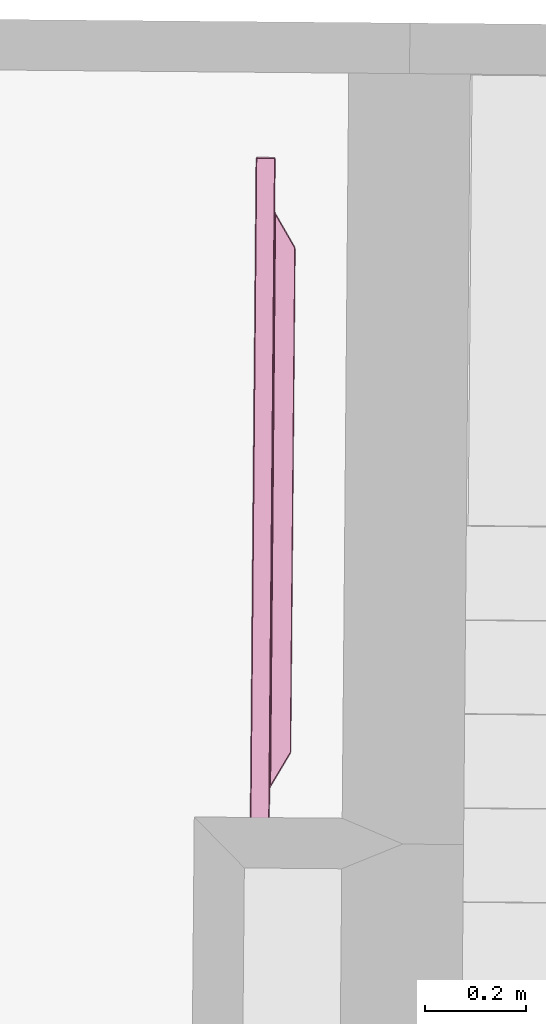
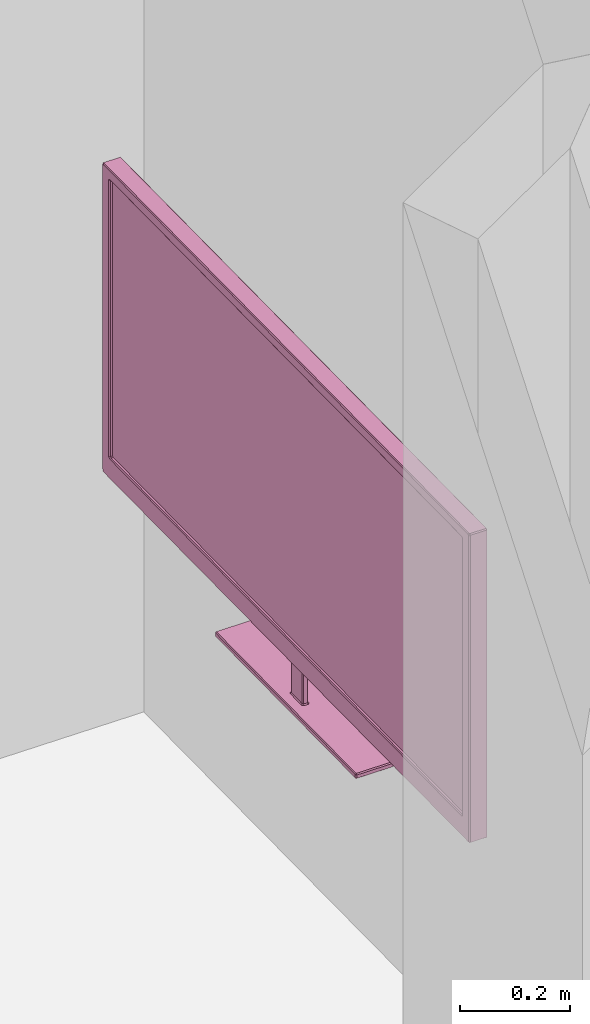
# One storey, part 3 of 7: 1 furniture element.
"""IFC4 building model written with IfcOpenShell, lengths in metres."""

import ifcopenshell
import ifcopenshell.guid

model = None  # the IFC model being written
_history = None  # IfcOwnerHistory: only IFC2X3 demands one
_inside = {}  # id of a spatial element -> (the spatial element, [elements in it])
_under = {}  # id of a project, library or spatial element -> (it, [spatial elements below it])
_declared = {}  # id of a project -> (the project, [libraries it declares])
_typed = {}  # id of a type object -> (the type object, [elements of that type])
_made_of = {}  # id of a material, layer set ... -> (it, [elements and type objects made of it])


def new_model(schema):
    """Start an empty IFC model of exactly this schema.

    Asked for "IFC4X3", IfcOpenShell would pick the latest addendum, in which some entities
    have other attributes; the version numbers below select the first issue.
    IFC2X3 requires an IfcOwnerHistory on every rooted entity: one is made here for all.
    """
    global model, _history
    if schema == "IFC4X3":
        model = ifcopenshell.file(schema_version=(4, 3, 0, 0))
    else:
        model = ifcopenshell.file(schema=schema)
    _inside.clear()
    _under.clear()
    _declared.clear()
    _typed.clear()
    _made_of.clear()
    _history = None
    if model.schema == "IFC2X3":
        org = make("IfcOrganization", Name="unknown")
        user = make(
            "IfcPersonAndOrganization",
            ThePerson=make("IfcPerson", FamilyName="unknown"),
            TheOrganization=org,
        )
        app = make(
            "IfcApplication",
            ApplicationDeveloper=org,
            Version="unknown",
            ApplicationFullName="unknown",
            ApplicationIdentifier="unknown",
        )
        _history = make(
            "IfcOwnerHistory",
            OwningUser=user,
            OwningApplication=app,
            ChangeAction="ADDED",
            CreationDate=0,
        )
    return model


def make(cls, **values):
    """One entity of the class cls with the attributes given. An attribute that is None is left unset."""
    return model.create_entity(
        cls, **{name: value for name, value in values.items() if value is not None}
    )


def rooted(cls, **values):
    """An entity with a GlobalId (a new one), such as an element, a storey or a relation."""
    return make(cls, GlobalId=ifcopenshell.guid.new(), OwnerHistory=_history, **values)


def si_unit(unit_type, name, prefix=None):
    """IfcSIUnit, for example si_unit("LENGTHUNIT", "METRE", prefix="MILLI")."""
    return make("IfcSIUnit", UnitType=unit_type, Prefix=prefix, Name=name)


def assignment(units):
    """IfcUnitAssignment: the units of a project."""
    return None if units is None else make("IfcUnitAssignment", Units=units)


def point(xyz):
    """IfcCartesianPoint."""
    return None if xyz is None else make("IfcCartesianPoint", Coordinates=xyz)


def direction(xyz):
    """IfcDirection."""
    return None if xyz is None else make("IfcDirection", DirectionRatios=xyz)


def frame(location, z_axis=None, x_axis=None):
    """IfcAxis2Placement3D, a coordinate frame: its origin and axes. An axis left out is left unset."""
    return make(
        "IfcAxis2Placement3D",
        Location=point(location),
        Axis=direction(z_axis),
        RefDirection=direction(x_axis),
    )


def origin_with_axes():
    """The frame at (0, 0, 0) with the z axis (0, 0, 1) and the x axis (1, 0, 0) written out."""
    return frame((0.0, 0.0, 0.0), z_axis=(0.0, 0.0, 1.0), x_axis=(1.0, 0.0, 0.0))


def place(relative_to, where):
    """IfcLocalPlacement: puts the frame where relative to a parent placement (None: the world)."""
    return make(
        "IfcLocalPlacement", PlacementRelTo=relative_to, RelativePlacement=where
    )


def context(
    kind, dimensions, precision=None, world=None, true_north=None, identifier=None
):
    """IfcGeometricRepresentationContext, for example the 3D "Model" context."""
    return make(
        "IfcGeometricRepresentationContext",
        ContextIdentifier=identifier,
        ContextType=kind,
        CoordinateSpaceDimension=dimensions,
        Precision=precision,
        WorldCoordinateSystem=world,
        TrueNorth=true_north,
    )


def project(units=None, contexts=None):
    """IfcProject with its units and contexts."""
    return rooted(
        "IfcProject",
        Name="project",
        RepresentationContexts=contexts,
        UnitsInContext=assignment(units),
    )


def spatial(cls, under=None, at=None, **own):
    """A site, building, storey or space (cls), placed at a placement, below another one or the project."""
    s = rooted(cls, ObjectPlacement=at, **own)
    if under is not None:
        _under.setdefault(under.id(), (under, []))[1].append(s)
    return s


def point_list(points):
    """IfcCartesianPointList2D or 3D."""
    cls = (
        "IfcCartesianPointList2D" if len(points[0]) == 2 else "IfcCartesianPointList3D"
    )
    return make(cls, CoordList=points)


def polygons(points, faces, closed=None, point_numbers=None):
    """IfcPolygonalFaceSet: a face is its outer loop, then its inner loops; points numbered from 1."""
    made = []
    for loops in faces:
        if len(loops) == 1:
            made.append(make("IfcIndexedPolygonalFace", CoordIndex=loops[0]))
        else:
            made.append(
                make(
                    "IfcIndexedPolygonalFaceWithVoids",
                    CoordIndex=loops[0],
                    InnerCoordIndices=loops[1:],
                )
            )
    return make(
        "IfcPolygonalFaceSet",
        Coordinates=point_list(points),
        Closed=closed,
        Faces=made,
        PnIndex=point_numbers,
    )


def shape(context_of_items, identifier, shape_type, items):
    """IfcShapeRepresentation: the items that make up one representation, for example the "Body"."""
    return make(
        "IfcShapeRepresentation",
        ContextOfItems=context_of_items,
        RepresentationIdentifier=identifier,
        RepresentationType=shape_type,
        Items=items,
    )


def made_of(thing, what):
    """Note that an element or type object is made of a material, layer set ...; save() writes the relation."""
    if what is not None:
        _made_of.setdefault(what.id(), (what, []))[1].append(thing)
    return thing


def type_object(cls, material=None, **own):
    """A type object (cls), such as IfcWallType, which elements share."""
    return made_of(rooted(cls, **own), material)


def element(
    cls,
    number,
    at=None,
    inside=None,
    cuts=None,
    type_object=None,
    material=None,
    context=None,
    identifier="Body",
    shape_type=None,
    held_by="IfcProductDefinitionShape",
    body=None,
    shapes=None,
    **own,
):
    """One element of the class cls, such as IfcWall. Its Tag is "e" and its number.

    at: its placement. inside: the storey or other place that contains it. cuts: it is an
    opening in that element (IfcRelVoidsElement). A single representation is given by context,
    identifier, shape_type and body (its items); several are given by shapes. held_by: the class
    of the entity that holds the representations. save() writes the other relations.
    """
    e = rooted(cls, Tag="e%d" % number, ObjectPlacement=at, **own)
    if body is not None:
        shapes = [shape(context, identifier, shape_type, body)]
    if shapes is not None:
        e.Representation = make(held_by, Representations=shapes)
    if inside is not None:
        _inside.setdefault(inside.id(), (inside, []))[1].append(e)
    if cuts is not None:
        rooted(
            "IfcRelVoidsElement", RelatingBuildingElement=cuts, RelatedOpeningElement=e
        )
    if type_object is not None:
        _typed.setdefault(type_object.id(), (type_object, []))[1].append(e)
    return made_of(e, material)


def aggregate(whole, parts):
    """IfcRelAggregates: a whole, such as a stair, and the parts it consists of."""
    return rooted("IfcRelAggregates", RelatingObject=whole, RelatedObjects=parts)


def save(model, path):
    """Write the relations noted so far, then the file.

    IfcRelAggregates (storeys below a building ...), IfcRelContainedInSpatialStructure (elements
    in a storey), IfcRelDefinesByType, IfcRelAssociatesMaterial and IfcRelDeclares: one each for
    every whole, place, type object, material and project.
    """
    for whole, parts in _under.values():
        aggregate(whole, parts)
    for where, things in _inside.values():
        rooted(
            "IfcRelContainedInSpatialStructure",
            RelatedElements=things,
            RelatingStructure=where,
        )
    for kind, things in _typed.values():
        rooted("IfcRelDefinesByType", RelatedObjects=things, RelatingType=kind)
    for what, things in _made_of.values():
        rooted("IfcRelAssociatesMaterial", RelatedObjects=things, RelatingMaterial=what)
    for by, libraries in _declared.values():
        rooted("IfcRelDeclares", RelatingContext=by, RelatedDefinitions=libraries)
    model.write(path)


model = new_model("IFC4")

# Units and contexts
model_context = context("Model", 3, precision=1e-05, world=origin_with_axes(), true_north=direction((-0.077, 0.997, 0.0)))
ifc_project = project(units=[si_unit("AREAUNIT", "SQUARE_METRE"), si_unit("LENGTHUNIT", "METRE")], contexts=[model_context])

# Site, building, storey, space
site_placement = place(None, origin_with_axes())
site = spatial("IfcSite", under=ifc_project, at=site_placement, Name="Site", CompositionType="ELEMENT")
building_placement = place(site_placement, origin_with_axes())
building = spatial("IfcBuilding", under=site, at=building_placement, Name="Building", CompositionType="ELEMENT")
storey_placement = place(building_placement, frame((0.0, 0.0, 2.86083245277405), z_axis=(0.0, 0.0, 1.0), x_axis=(1.0, 0.0, 0.0)))
storey = spatial("IfcBuildingStorey", under=building, at=storey_placement, Name="Story 1", CompositionType="ELEMENT", Elevation=2.86083245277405)
space_placement = place(storey_placement, frame((-1.88934694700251, -5.03419151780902, 0.0), z_axis=(0.0, 0.0, 1.0), x_axis=(1.0, 0.0, 0.0)))
space = spatial("IfcSpace", under=storey, at=space_placement, Name="009", CompositionType="ELEMENT")

# Furniture
furniture_type = type_object("IfcFurnitureType", Name="3d30dc89-6ee4-4fe1-a09d-7763d9edd0d6", AssemblyPlace="NOTDEFINED", PredefinedType="USERDEFINED")
furniture_placement = place(space_placement, frame((3.06013118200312, 6.04614415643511, 0.98630952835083), z_axis=(0.0, 0.0, 0.999999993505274), x_axis=(-0.999961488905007, 0.00878521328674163, 0.0)))
element("IfcFurniture", 1, at=furniture_placement, inside=space, type_object=furniture_type, Name="Television", ObjectType="Television", PredefinedType="USERDEFINED", context=model_context, shape_type="Tessellation", body=[
    polygons([(0.0288, -0.6434, -0.2362), (0.0288, 0.6434, -0.2362), (0.0288, -0.646, -0.234), (0.0288, -0.646, 0.3703), (0.0288, -0.646, -0.234), (0.0288, -0.6434, 0.3725), (0.0288, 0.6434, 0.3725), (0.0288, -0.6434, 0.3725), (0.0288, 0.646, 0.3703), (0.0288, -0.6434, 0.3725), (0.0288, -0.646, -0.234), (0.0288, 0.646, 0.3703), (0.0288, -0.646, -0.234), (0.0288, 0.6434, -0.2362), (0.0288, 0.646, 0.3703), (0.0288, 0.6434, -0.2362), (0.0288, 0.646, -0.234), (0.0288, 0.646, 0.3703), (0.003, -0.6785, 0.3973), (0.003, -0.6785, -0.2848), (0.038, -0.6785, 0.3973), (0.038, -0.6785, -0.2848), (0.038, -0.6785, 0.3973), (0.003, -0.6785, -0.2848), (0.003, 0.6785, -0.2848), (0.003, 0.6785, 0.3973), (0.038, 0.6785, -0.2848), (0.038, 0.6785, 0.3973), (0.038, 0.6785, -0.2848), (0.003, 0.6785, 0.3973), (0.003, 0.676, 0.3994), (0.003, -0.676, 0.3994), (0.038, 0.676, 0.3994), (0.038, -0.676, 0.3994), (0.038, 0.676, 0.3994), (0.003, -0.676, 0.3994), (0.0143, -0.0234, -0.2623), (0.0062, -0.0234, -0.2623), (0.0143, -0.0234, -0.3858), (0.0062, -0.0234, -0.3858), (0.0143, -0.0234, -0.3858), (0.0062, -0.0234, -0.2623), (0.0162, 0.0186, -0.2623), (0.0162, -0.0209, -0.2623), (0.0162, 0.0186, -0.3858), (0.0162, -0.0209, -0.3858), (0.0162, 0.0186, -0.3858), (0.0162, -0.0209, -0.2623), (0.0062, 0.0211, -0.2623), (0.0143, 0.0211, -0.2623), (0.0062, 0.0211, -0.3858), (0.0143, 0.0211, -0.3858), (0.0062, 0.0211, -0.3858), (0.0143, 0.0211, -0.2623), (-0.04, 0.4974, -0.1608), (-0.04, -0.4974, -0.1608), (-0.04, 0.4974, 0.2733), (-0.04, -0.4974, 0.2733), (-0.04, 0.4974, 0.2733), (-0.04, -0.4974, -0.1608), (0.0043, 0.0186, -0.3858), (0.0043, -0.0209, -0.3858), (0.0043, 0.0186, -0.2623), (0.0043, -0.0209, -0.2623), (0.0043, 0.0186, -0.2623), (0.0043, -0.0209, -0.3858), (0.038, -0.676, -0.2869), (0.003, -0.676, -0.2869), (0.038, 0.676, -0.2869), (0.003, 0.676, -0.2869), (0.038, 0.676, -0.2869), (0.003, -0.676, -0.2869), (-0.0379, -0.2595, -0.3994), (-0.0379, 0.2572, -0.3994), (0.0382, -0.2595, -0.3994), (0.0382, 0.2572, -0.3994), (0.0382, -0.2595, -0.3994), (-0.0379, 0.2572, -0.3994), (0.0399, -0.6495, -0.2424), (0.0399, -0.6745, -0.2848), (0.0399, 0.6495, -0.2424), (0.0399, 0.6745, -0.2848), (0.0399, 0.6495, -0.2424), (0.0399, -0.6745, -0.2848), (0.0399, -0.6536, 0.3758), (0.0399, -0.676, 0.3944), (0.0399, -0.6536, -0.2399), (0.0399, -0.676, -0.2779), (0.0399, -0.6536, -0.2399), (0.0399, -0.676, 0.3944), (0.0399, 0.65, 0.3787), (0.0399, 0.6725, 0.3973), (0.0399, -0.65, 0.3787), (0.0399, -0.6725, 0.3973), (0.0399, -0.65, 0.3787), (0.0399, 0.6725, 0.3973), (0.0399, 0.676, -0.2779), (0.0399, 0.676, 0.3944), (0.0399, 0.6536, -0.2399), (0.0399, 0.6536, 0.3758), (0.0399, 0.6536, -0.2399), (0.0399, 0.676, 0.3944), (0.0288, -0.6434, -0.2362), (0.0381, -0.6476, -0.2397), (0.0288, 0.6434, -0.2362), (0.0381, 0.6476, -0.2397), (0.0288, 0.6434, -0.2362), (0.0381, -0.6476, -0.2397), (0.0288, -0.646, 0.3703), (0.0381, -0.6503, 0.3738), (0.0288, -0.646, -0.234), (0.0381, -0.6503, -0.2375), (0.0288, -0.646, -0.234), (0.0381, -0.6503, 0.3738), (0.0288, 0.6434, 0.3725), (0.0381, 0.6476, 0.376), (0.0288, -0.6434, 0.3725), (0.0381, -0.6476, 0.376), (0.0288, -0.6434, 0.3725), (0.0381, 0.6476, 0.376), (0.0288, 0.646, -0.234), (0.0381, 0.6503, -0.2375), (0.0288, 0.646, 0.3703), (0.0381, 0.6503, 0.3738), (0.0288, 0.646, 0.3703), (0.0381, 0.6503, -0.2375), (0.0011, -0.5728, -0.2011), (0.0011, -0.676, -0.2821), (0.0011, -0.5728, 0.3137), (0.0011, -0.676, 0.3946), (0.0011, -0.5728, 0.3137), (0.0011, -0.676, -0.2821), (0.0011, 0.5693, -0.2041), (0.0011, 0.6722, -0.2848), (0.0011, -0.5693, -0.2041), (0.0011, -0.6722, -0.2848), (0.0011, -0.5693, -0.2041), (0.0011, 0.6722, -0.2848), (0.0011, 0.5728, 0.3137), (0.0011, 0.676, 0.3946), (0.0011, 0.5728, -0.2011), (0.0011, 0.676, -0.2821), (0.0011, 0.5728, -0.2011), (0.0011, 0.676, 0.3946), (0.0011, -0.5693, 0.3166), (0.0011, -0.6722, 0.3973), (0.0011, 0.5693, 0.3166), (0.0011, 0.6722, 0.3973), (0.0011, 0.5693, 0.3166), (0.0011, -0.6722, 0.3973), (-0.0389, -0.5018, 0.2741), (-0.0389, -0.5018, -0.1616), (0.0, -0.5683, 0.3111), (0.0, -0.5683, -0.1986), (0.0, -0.5683, 0.3111), (-0.0389, -0.5018, -0.1616), (-0.0386, -0.4988, -0.1642), (-0.0386, 0.4988, -0.1642), (-0.0003, -0.5644, -0.2007), (-0.0003, 0.5644, -0.2007), (-0.0003, -0.5644, -0.2007), (-0.0386, 0.4988, -0.1642), (-0.0389, 0.5018, -0.1616), (-0.0389, 0.5018, 0.2741), (0.0, 0.5683, -0.1986), (0.0, 0.5683, 0.3111), (0.0, 0.5683, -0.1986), (-0.0389, 0.5018, 0.2741), (-0.0386, 0.4988, 0.2767), (-0.0386, -0.4988, 0.2767), (-0.0003, 0.5644, 0.3132), (-0.0003, -0.5644, 0.3132), (-0.0003, 0.5644, 0.3132), (-0.0386, -0.4988, 0.2767), (0.04, 0.2572, -0.3973), (0.04, 0.2572, -0.39), (0.04, -0.2595, -0.3973), (0.04, -0.2595, -0.39), (0.04, -0.2595, -0.3973), (0.04, 0.2572, -0.39), (-0.0379, 0.2597, -0.3973), (-0.0379, 0.2597, -0.39), (0.0382, 0.2597, -0.3973), (0.0382, 0.2597, -0.39), (0.0382, 0.2597, -0.3973), (-0.0379, 0.2597, -0.39), (-0.0397, -0.2595, -0.3973), (-0.0397, -0.2595, -0.39), (-0.0397, 0.2572, -0.3973), (-0.0397, 0.2572, -0.39), (-0.0397, 0.2572, -0.3973), (-0.0397, -0.2595, -0.39), (0.0382, -0.262, -0.3973), (0.0382, -0.262, -0.39), (-0.0379, -0.262, -0.3973), (-0.0379, -0.262, -0.39), (-0.0379, -0.262, -0.3973), (0.0382, -0.262, -0.39), (-0.0374, -0.2595, -0.388), (0.0379, -0.2595, -0.388), (0.0058, -0.0259, -0.3879), (0.0146, -0.0259, -0.3879), (0.0058, -0.0259, -0.3879), (0.0379, -0.2595, -0.388), (0.0025, 0.0208, -0.3879), (-0.0379, 0.2395, -0.388), (0.0025, -0.0231, -0.3879), (-0.0379, -0.2418, -0.388), (0.0025, -0.0231, -0.3879), (-0.0379, 0.2395, -0.388), (0.0146, 0.0236, -0.3879), (0.0379, 0.2572, -0.388), (0.0058, 0.0236, -0.3879), (-0.0374, 0.2572, -0.388), (0.0058, 0.0236, -0.3879), (0.0379, 0.2572, -0.388), (0.018, -0.0232, -0.3879), (0.0382, -0.225, -0.3879), (0.018, 0.0209, -0.3879), (0.0382, 0.2227, -0.3879), (0.018, 0.0209, -0.3879), (0.0382, -0.225, -0.3879), (0.0346, -0.6637, -0.2482), (0.0346, 0.6637, -0.2482), (0.0346, -0.6637, 0.3845), (0.0346, 0.6637, 0.3844), (0.0346, -0.6637, 0.3845), (0.0346, 0.6637, -0.2482), (0.0399, -0.6725, 0.3973), (0.038, -0.676, 0.3994), (0.0399, -0.676, 0.3944), (0.038, -0.6785, 0.3973), (0.0399, -0.676, 0.3944), (0.038, -0.676, 0.3994), (0.0011, 0.6722, 0.3973), (0.003, 0.676, 0.3994), (0.0011, 0.676, 0.3946), (0.003, 0.6785, 0.3973), (0.0011, 0.676, 0.3946), (0.003, 0.676, 0.3994), (0.0399, 0.676, 0.3944), (0.038, 0.6785, 0.3973), (0.0399, 0.6725, 0.3973), (0.038, 0.676, 0.3994), (0.0399, 0.6725, 0.3973), (0.038, 0.6785, 0.3973), (0.0058, -0.0259, -0.3879), (0.0062, -0.0234, -0.3858), (0.0025, -0.0231, -0.3879), (0.0043, -0.0209, -0.3858), (0.0025, -0.0231, -0.3879), (0.0062, -0.0234, -0.3858), (0.0146, -0.0259, -0.3879), (0.018, -0.0232, -0.3879), (0.0143, -0.0234, -0.3858), (0.0162, -0.0209, -0.3858), (0.0143, -0.0234, -0.3858), (0.018, -0.0232, -0.3879), (0.0146, 0.0236, -0.3879), (0.0143, 0.0211, -0.3858), (0.018, 0.0209, -0.3879), (0.0162, 0.0186, -0.3858), (0.018, 0.0209, -0.3879), (0.0143, 0.0211, -0.3858), (-0.0386, -0.4988, 0.2767), (-0.04, -0.4974, 0.2733), (-0.0389, -0.5018, 0.2741), (0.0058, 0.0236, -0.3879), (0.0025, 0.0208, -0.3879), (0.0062, 0.0211, -0.3858), (0.0043, 0.0186, -0.3858), (0.0062, 0.0211, -0.3858), (0.0025, 0.0208, -0.3879), (0.0011, -0.6722, -0.2848), (0.003, -0.676, -0.2869), (0.0011, -0.676, -0.2821), (0.003, -0.6785, -0.2848), (0.0011, -0.676, -0.2821), (0.003, -0.676, -0.2869), (0.0399, -0.676, -0.2779), (0.038, -0.6785, -0.2848), (0.0399, -0.6745, -0.2848), (0.038, -0.676, -0.2869), (0.0399, -0.6745, -0.2848), (0.038, -0.6785, -0.2848), (0.0382, -0.262, -0.3973), (0.0382, -0.2595, -0.3994), (0.04, -0.2595, -0.3973), (0.0399, 0.676, -0.2779), (0.0399, 0.6745, -0.2848), (0.038, 0.6785, -0.2848), (0.038, 0.676, -0.2869), (0.038, 0.6785, -0.2848), (0.0399, 0.6745, -0.2848), (0.0381, -0.6503, -0.2375), (0.0399, -0.6536, -0.2399), (0.0381, -0.6476, -0.2397), (0.0399, -0.6495, -0.2424), (0.0381, -0.6476, -0.2397), (0.0399, -0.6536, -0.2399), (0.0381, -0.6476, 0.376), (0.0399, -0.65, 0.3787), (0.0381, -0.6503, 0.3738), (0.0399, -0.6536, 0.3758), (0.0381, -0.6503, 0.3738), (0.0399, -0.65, 0.3787), (0.0381, 0.6503, 0.3738), (0.0399, 0.6536, 0.3758), (0.0381, 0.6476, 0.376), (0.0399, 0.65, 0.3787), (0.0381, 0.6476, 0.376), (0.0399, 0.6536, 0.3758), (0.0381, 0.6503, -0.2375), (0.0381, 0.6476, -0.2397), (0.0399, 0.6536, -0.2399), (0.0399, 0.6495, -0.2424), (0.0399, 0.6536, -0.2399), (0.0381, 0.6476, -0.2397), (0.0011, -0.6722, 0.3973), (0.0011, -0.676, 0.3946), (0.003, -0.676, 0.3994), (0.003, -0.6785, 0.3973), (0.003, -0.676, 0.3994), (0.0011, -0.676, 0.3946), (-0.0003, -0.5644, 0.3132), (0.0, -0.5683, 0.3111), (0.0011, -0.5693, 0.3166), (0.0011, -0.5728, 0.3137), (0.0011, -0.5693, 0.3166), (0.0, -0.5683, 0.3111), (-0.0003, -0.5644, -0.2007), (0.0011, -0.5693, -0.2041), (0.0, -0.5683, -0.1986), (0.0011, -0.5728, -0.2011), (0.0, -0.5683, -0.1986), (0.0011, -0.5693, -0.2041), (0.0011, 0.6722, -0.2848), (0.0011, 0.676, -0.2821), (0.003, 0.676, -0.2869), (0.003, 0.6785, -0.2848), (0.003, 0.676, -0.2869), (0.0011, 0.676, -0.2821), (-0.0003, 0.5644, -0.2007), (0.0, 0.5683, -0.1986), (0.0011, 0.5693, -0.2041), (0.0011, 0.5728, -0.2011), (0.0011, 0.5693, -0.2041), (0.0, 0.5683, -0.1986), (-0.0003, 0.5644, 0.3132), (0.0011, 0.5693, 0.3166), (0.0, 0.5683, 0.3111), (0.0011, 0.5728, 0.3137), (0.0, 0.5683, 0.3111), (0.0011, 0.5693, 0.3166), (-0.0386, -0.4988, -0.1642), (-0.0389, -0.5018, -0.1616), (-0.04, -0.4974, -0.1608), (-0.0389, 0.5018, -0.1616), (-0.0386, 0.4988, -0.1642), (-0.04, 0.4974, -0.1608), (-0.0386, 0.4988, 0.2767), (-0.0389, 0.5018, 0.2741), (-0.04, 0.4974, 0.2733), (0.0382, 0.2597, -0.3973), (0.04, 0.2572, -0.3973), (0.0382, 0.2572, -0.3994), (-0.0397, 0.2572, -0.3973), (-0.0379, 0.2597, -0.3973), (-0.0379, 0.2572, -0.3994), (-0.0379, -0.262, -0.3973), (-0.0397, -0.2595, -0.3973), (-0.0379, -0.2595, -0.3994), (-0.0379, -0.2418, -0.388), (-0.0397, -0.2595, -0.39), (-0.0374, -0.2595, -0.388), (-0.0379, -0.262, -0.39), (-0.0374, -0.2595, -0.388), (-0.0397, -0.2595, -0.39), (0.0382, -0.225, -0.3879), (0.0379, -0.2595, -0.388), (0.04, -0.2595, -0.39), (0.0382, -0.262, -0.39), (0.04, -0.2595, -0.39), (0.0379, -0.2595, -0.388), (-0.0379, 0.2395, -0.388), (-0.0374, 0.2572, -0.388), (-0.0397, 0.2572, -0.39), (-0.0379, 0.2597, -0.39), (-0.0397, 0.2572, -0.39), (-0.0374, 0.2572, -0.388), (0.0382, 0.2597, -0.39), (0.0379, 0.2572, -0.388), (0.04, 0.2572, -0.39), (0.0382, 0.2227, -0.3879), (0.04, 0.2572, -0.39), (0.0379, 0.2572, -0.388), (0.038, -0.6785, -0.2848), (0.003, -0.6785, -0.2848), (0.038, -0.676, -0.2869), (0.003, -0.676, -0.2869), (0.038, -0.676, -0.2869), (0.003, -0.6785, -0.2848), (0.003, -0.6785, 0.3973), (0.038, -0.6785, 0.3973), (0.003, -0.676, 0.3994), (0.038, -0.676, 0.3994), (0.003, -0.676, 0.3994), (0.038, -0.6785, 0.3973), (0.038, 0.6785, 0.3973), (0.003, 0.6785, 0.3973), (0.038, 0.676, 0.3994), (0.003, 0.676, 0.3994), (0.038, 0.676, 0.3994), (0.003, 0.6785, 0.3973), (0.003, 0.6785, -0.2848), (0.038, 0.6785, -0.2848), (0.003, 0.676, -0.2869), (0.038, 0.676, -0.2869), (0.003, 0.676, -0.2869), (0.038, 0.6785, -0.2848), (0.0062, -0.0234, -0.3858), (0.0062, -0.0234, -0.2623), (0.0043, -0.0209, -0.3858), (0.0043, -0.0209, -0.2623), (0.0043, -0.0209, -0.3858), (0.0062, -0.0234, -0.2623), (0.0143, -0.0234, -0.2623), (0.0143, -0.0234, -0.3858), (0.0162, -0.0209, -0.2623), (0.0162, -0.0209, -0.3858), (0.0162, -0.0209, -0.2623), (0.0143, -0.0234, -0.3858), (0.0162, 0.0186, -0.2623), (0.0162, 0.0186, -0.3858), (0.0143, 0.0211, -0.2623), (0.0143, 0.0211, -0.3858), (0.0143, 0.0211, -0.2623), (0.0162, 0.0186, -0.3858), (0.0062, 0.0211, -0.2623), (0.0062, 0.0211, -0.3858), (0.0043, 0.0186, -0.2623), (0.0043, 0.0186, -0.3858), (0.0043, 0.0186, -0.2623), (0.0062, 0.0211, -0.3858), (-0.04, -0.4974, 0.2733), (-0.04, -0.4974, -0.1608), (-0.0389, -0.5018, 0.2741), (-0.0389, -0.5018, -0.1616), (-0.0389, -0.5018, 0.2741), (-0.04, -0.4974, -0.1608), (-0.04, -0.4974, -0.1608), (-0.04, 0.4974, -0.1608), (-0.0386, -0.4988, -0.1642), (-0.0386, 0.4988, -0.1642), (-0.0386, -0.4988, -0.1642), (-0.04, 0.4974, -0.1608), (-0.04, 0.4974, -0.1608), (-0.04, 0.4974, 0.2733), (-0.0389, 0.5018, -0.1616), (-0.0389, 0.5018, 0.2741), (-0.0389, 0.5018, -0.1616), (-0.04, 0.4974, 0.2733), (-0.04, 0.4974, 0.2733), (-0.04, -0.4974, 0.2733), (-0.0386, 0.4988, 0.2767), (-0.0386, -0.4988, 0.2767), (-0.0386, 0.4988, 0.2767), (-0.04, -0.4974, 0.2733), (0.0382, 0.2572, -0.3994), (-0.0379, 0.2572, -0.3994), (0.0382, 0.2597, -0.3973), (-0.0379, 0.2597, -0.3973), (0.0382, 0.2597, -0.3973), (-0.0379, 0.2572, -0.3994), (-0.0379, 0.2572, -0.3994), (-0.0379, -0.2595, -0.3994), (-0.0397, 0.2572, -0.3973), (-0.0397, -0.2595, -0.3973), (-0.0397, 0.2572, -0.3973), (-0.0379, -0.2595, -0.3994), (-0.0379, -0.2595, -0.3994), (0.0382, -0.2595, -0.3994), (-0.0379, -0.262, -0.3973), (0.0382, -0.262, -0.3973), (-0.0379, -0.262, -0.3973), (0.0382, -0.2595, -0.3994), (0.0382, -0.2595, -0.3994), (0.0382, 0.2572, -0.3994), (0.04, -0.2595, -0.3973), (0.04, 0.2572, -0.3973), (0.04, -0.2595, -0.3973), (0.0382, 0.2572, -0.3994), (0.0399, 0.6745, -0.2848), (0.0399, -0.6745, -0.2848), (0.038, 0.676, -0.2869), (0.038, -0.676, -0.2869), (0.038, 0.676, -0.2869), (0.0399, -0.6745, -0.2848), (0.0399, -0.6745, -0.2848), (0.0399, -0.6495, -0.2424), (0.0399, -0.676, -0.2779), (0.0399, -0.6536, -0.2399), (0.0399, -0.676, -0.2779), (0.0399, -0.6495, -0.2424), (0.0399, -0.676, -0.2779), (0.0399, -0.676, 0.3944), (0.038, -0.6785, -0.2848), (0.038, -0.6785, 0.3973), (0.038, -0.6785, -0.2848), (0.0399, -0.676, 0.3944), (0.0399, -0.676, 0.3944), (0.0399, -0.6536, 0.3758), (0.0399, -0.6725, 0.3973), (0.0399, -0.65, 0.3787), (0.0399, -0.6725, 0.3973), (0.0399, -0.6536, 0.3758), (0.0399, -0.6725, 0.3973), (0.0399, 0.6725, 0.3973), (0.038, -0.676, 0.3994), (0.038, 0.676, 0.3994), (0.038, -0.676, 0.3994), (0.0399, 0.6725, 0.3973), (0.0399, 0.6725, 0.3973), (0.0399, 0.65, 0.3787), (0.0399, 0.676, 0.3944), (0.0399, 0.6536, 0.3758), (0.0399, 0.676, 0.3944), (0.0399, 0.65, 0.3787), (0.0399, 0.676, 0.3944), (0.0399, 0.676, -0.2779), (0.038, 0.6785, 0.3973), (0.038, 0.6785, -0.2848), (0.038, 0.6785, 0.3973), (0.0399, 0.676, -0.2779), (0.0399, 0.676, -0.2779), (0.0399, 0.6536, -0.2399), (0.0399, 0.6745, -0.2848), (0.0399, 0.6495, -0.2424), (0.0399, 0.6745, -0.2848), (0.0399, 0.6536, -0.2399), (0.0381, 0.6476, -0.2397), (0.0381, -0.6476, -0.2397), (0.0399, 0.6495, -0.2424), (0.0399, -0.6495, -0.2424), (0.0399, 0.6495, -0.2424), (0.0381, -0.6476, -0.2397), (0.0381, -0.6476, -0.2397), (0.0288, -0.6434, -0.2362), (0.0381, -0.6503, -0.2375), (0.0288, -0.646, -0.234), (0.0381, -0.6503, -0.2375), (0.0288, -0.6434, -0.2362), (0.0381, -0.6503, -0.2375), (0.0381, -0.6503, 0.3738), (0.0399, -0.6536, -0.2399), (0.0399, -0.6536, 0.3758), (0.0399, -0.6536, -0.2399), (0.0381, -0.6503, 0.3738), (0.0381, -0.6503, 0.3738), (0.0288, -0.646, 0.3703), (0.0381, -0.6476, 0.376), (0.0288, -0.6434, 0.3725), (0.0381, -0.6476, 0.376), (0.0288, -0.646, 0.3703), (0.0381, -0.6476, 0.376), (0.0381, 0.6476, 0.376), (0.0399, -0.65, 0.3787), (0.0399, 0.65, 0.3787), (0.0399, -0.65, 0.3787), (0.0381, 0.6476, 0.376), (0.0381, 0.6476, 0.376), (0.0288, 0.6434, 0.3725), (0.0381, 0.6503, 0.3738), (0.0288, 0.646, 0.3703), (0.0381, 0.6503, 0.3738), (0.0288, 0.6434, 0.3725), (0.0381, 0.6503, 0.3738), (0.0381, 0.6503, -0.2375), (0.0399, 0.6536, 0.3758), (0.0399, 0.6536, -0.2399), (0.0399, 0.6536, 0.3758), (0.0381, 0.6503, -0.2375), (0.0381, 0.6503, -0.2375), (0.0288, 0.646, -0.234), (0.0381, 0.6476, -0.2397), (0.0288, 0.6434, -0.2362), (0.0381, 0.6476, -0.2397), (0.0288, 0.646, -0.234), (0.0011, -0.676, 0.3946), (0.0011, -0.676, -0.2821), (0.003, -0.6785, 0.3973), (0.003, -0.6785, -0.2848), (0.003, -0.6785, 0.3973), (0.0011, -0.676, -0.2821), (0.0011, -0.676, -0.2821), (0.0011, -0.5728, -0.2011), (0.0011, -0.6722, -0.2848), (0.0011, -0.5693, -0.2041), (0.0011, -0.6722, -0.2848), (0.0011, -0.5728, -0.2011), (0.0011, -0.5728, -0.2011), (0.0011, -0.5728, 0.3137), (0.0, -0.5683, -0.1986), (0.0, -0.5683, 0.3111), (0.0, -0.5683, -0.1986), (0.0011, -0.5728, 0.3137), (0.0011, -0.6722, -0.2848), (0.0011, 0.6722, -0.2848), (0.003, -0.676, -0.2869), (0.003, 0.676, -0.2869), (0.003, -0.676, -0.2869), (0.0011, 0.6722, -0.2848), (0.0011, 0.6722, -0.2848), (0.0011, 0.5693, -0.2041), (0.0011, 0.676, -0.2821), (0.0011, 0.5728, -0.2011), (0.0011, 0.676, -0.2821), (0.0011, 0.5693, -0.2041), (0.0011, 0.5693, -0.2041), (0.0011, -0.5693, -0.2041), (-0.0003, 0.5644, -0.2007), (-0.0003, -0.5644, -0.2007), (-0.0003, 0.5644, -0.2007), (0.0011, -0.5693, -0.2041), (0.0011, 0.676, -0.2821), (0.0011, 0.676, 0.3946), (0.003, 0.6785, -0.2848), (0.003, 0.6785, 0.3973), (0.003, 0.6785, -0.2848), (0.0011, 0.676, 0.3946), (0.0011, 0.676, 0.3946), (0.0011, 0.5728, 0.3137), (0.0011, 0.6722, 0.3973), (0.0011, 0.5693, 0.3166), (0.0011, 0.6722, 0.3973), (0.0011, 0.5728, 0.3137), (0.0011, 0.5728, 0.3137), (0.0011, 0.5728, -0.2011), (0.0, 0.5683, 0.3111), (0.0, 0.5683, -0.1986), (0.0, 0.5683, 0.3111), (0.0011, 0.5728, -0.2011), (0.0011, 0.6722, 0.3973), (0.0011, -0.6722, 0.3973), (0.003, 0.676, 0.3994), (0.003, -0.676, 0.3994), (0.003, 0.676, 0.3994), (0.0011, -0.6722, 0.3973), (0.0011, -0.6722, 0.3973), (0.0011, -0.5693, 0.3166), (0.0011, -0.676, 0.3946), (0.0011, -0.5728, 0.3137), (0.0011, -0.676, 0.3946), (0.0011, -0.5693, 0.3166), (0.0011, -0.5693, 0.3166), (0.0011, 0.5693, 0.3166), (-0.0003, -0.5644, 0.3132), (-0.0003, 0.5644, 0.3132), (-0.0003, -0.5644, 0.3132), (0.0011, 0.5693, 0.3166), (0.0, -0.5683, -0.1986), (-0.0389, -0.5018, -0.1616), (-0.0003, -0.5644, -0.2007), (-0.0386, -0.4988, -0.1642), (-0.0003, -0.5644, -0.2007), (-0.0389, -0.5018, -0.1616), (-0.0003, 0.5644, -0.2007), (-0.0386, 0.4988, -0.1642), (0.0, 0.5683, -0.1986), (-0.0389, 0.5018, -0.1616), (0.0, 0.5683, -0.1986), (-0.0386, 0.4988, -0.1642), (0.0, 0.5683, 0.3111), (-0.0389, 0.5018, 0.2741), (-0.0003, 0.5644, 0.3132), (-0.0386, 0.4988, 0.2767), (-0.0003, 0.5644, 0.3132), (-0.0389, 0.5018, 0.2741), (-0.0003, -0.5644, 0.3132), (-0.0386, -0.4988, 0.2767), (0.0, -0.5683, 0.3111), (-0.0389, -0.5018, 0.2741), (0.0, -0.5683, 0.3111), (-0.0386, -0.4988, 0.2767), (0.04, 0.2572, -0.39), (0.04, 0.2572, -0.3973), (0.0382, 0.2597, -0.39), (0.0382, 0.2597, -0.3973), (0.0382, 0.2597, -0.39), (0.04, 0.2572, -0.3973), (-0.0379, 0.2597, -0.39), (-0.0379, 0.2597, -0.3973), (-0.0397, 0.2572, -0.39), (-0.0397, 0.2572, -0.3973), (-0.0397, 0.2572, -0.39), (-0.0379, 0.2597, -0.3973), (-0.0397, -0.2595, -0.39), (-0.0397, -0.2595, -0.3973), (-0.0379, -0.262, -0.39), (-0.0379, -0.262, -0.3973), (-0.0379, -0.262, -0.39), (-0.0397, -0.2595, -0.3973), (0.0382, -0.262, -0.39), (0.0382, -0.262, -0.3973), (0.04, -0.2595, -0.39), (0.04, -0.2595, -0.3973), (0.04, -0.2595, -0.39), (0.0382, -0.262, -0.3973), (0.0379, -0.2595, -0.388), (-0.0374, -0.2595, -0.388), (0.0382, -0.262, -0.39), (-0.0379, -0.262, -0.39), (0.0382, -0.262, -0.39), (-0.0374, -0.2595, -0.388), (-0.0374, -0.2595, -0.388), (0.0058, -0.0259, -0.3879), (-0.0379, -0.2418, -0.388), (0.0025, -0.0231, -0.3879), (-0.0379, -0.2418, -0.388), (0.0058, -0.0259, -0.3879), (0.0058, -0.0259, -0.3879), (0.0146, -0.0259, -0.3879), (0.0062, -0.0234, -0.3858), (0.0143, -0.0234, -0.3858), (0.0062, -0.0234, -0.3858), (0.0146, -0.0259, -0.3879), (-0.0379, -0.2418, -0.388), (-0.0379, 0.2395, -0.388), (-0.0397, -0.2595, -0.39), (-0.0397, 0.2572, -0.39), (-0.0397, -0.2595, -0.39), (-0.0379, 0.2395, -0.388), (-0.0379, 0.2395, -0.388), (0.0025, 0.0208, -0.3879), (-0.0374, 0.2572, -0.388), (0.0058, 0.0236, -0.3879), (-0.0374, 0.2572, -0.388), (0.0025, 0.0208, -0.3879), (0.0025, 0.0208, -0.3879), (0.0025, -0.0231, -0.3879), (0.0043, 0.0186, -0.3858), (0.0043, -0.0209, -0.3858), (0.0043, 0.0186, -0.3858), (0.0025, -0.0231, -0.3879), (-0.0374, 0.2572, -0.388), (0.0379, 0.2572, -0.388), (-0.0379, 0.2597, -0.39), (0.0382, 0.2597, -0.39), (-0.0379, 0.2597, -0.39), (0.0379, 0.2572, -0.388), (0.0379, 0.2572, -0.388), (0.0146, 0.0236, -0.3879), (0.0382, 0.2227, -0.3879), (0.018, 0.0209, -0.3879), (0.0382, 0.2227, -0.3879), (0.0146, 0.0236, -0.3879), (0.0146, 0.0236, -0.3879), (0.0058, 0.0236, -0.3879), (0.0143, 0.0211, -0.3858), (0.0062, 0.0211, -0.3858), (0.0143, 0.0211, -0.3858), (0.0058, 0.0236, -0.3879), (0.0382, 0.2227, -0.3879), (0.0382, -0.225, -0.3879), (0.04, 0.2572, -0.39), (0.04, -0.2595, -0.39), (0.04, 0.2572, -0.39), (0.0382, -0.225, -0.3879), (0.0382, -0.225, -0.3879), (0.018, -0.0232, -0.3879), (0.0379, -0.2595, -0.388), (0.0146, -0.0259, -0.3879), (0.0379, -0.2595, -0.388), (0.018, -0.0232, -0.3879), (0.018, -0.0232, -0.3879), (0.018, 0.0209, -0.3879), (0.0162, -0.0209, -0.3858), (0.0162, 0.0186, -0.3858), (0.0162, -0.0209, -0.3858), (0.018, 0.0209, -0.3879)], [[[1, 2, 3]], [[4, 5, 6]], [[7, 8, 9]], [[10, 11, 12]], [[13, 14, 15]], [[16, 17, 18]], [[19, 20, 21]], [[22, 23, 24]], [[25, 26, 27]], [[28, 29, 30]], [[31, 32, 33]], [[34, 35, 36]], [[37, 38, 39]], [[40, 41, 42]], [[43, 44, 45]], [[46, 47, 48]], [[49, 50, 51]], [[52, 53, 54]], [[55, 56, 57]], [[58, 59, 60]], [[61, 62, 63]], [[64, 65, 66]], [[67, 68, 69]], [[70, 71, 72]], [[73, 74, 75]], [[76, 77, 78]], [[79, 80, 81]], [[82, 83, 84]], [[85, 86, 87]], [[88, 89, 90]], [[91, 92, 93]], [[94, 95, 96]], [[97, 98, 99]], [[100, 101, 102]], [[103, 104, 105]], [[106, 107, 108]], [[109, 110, 111]], [[112, 113, 114]], [[115, 116, 117]], [[118, 119, 120]], [[121, 122, 123]], [[124, 125, 126]], [[127, 128, 129]], [[130, 131, 132]], [[133, 134, 135]], [[136, 137, 138]], [[139, 140, 141]], [[142, 143, 144]], [[145, 146, 147]], [[148, 149, 150]], [[151, 152, 153]], [[154, 155, 156]], [[157, 158, 159]], [[160, 161, 162]], [[163, 164, 165]], [[166, 167, 168]], [[169, 170, 171]], [[172, 173, 174]], [[175, 176, 177]], [[178, 179, 180]], [[181, 182, 183]], [[184, 185, 186]], [[187, 188, 189]], [[190, 191, 192]], [[193, 194, 195]], [[196, 197, 198]], [[199, 200, 201]], [[202, 203, 204]], [[205, 206, 207]], [[208, 209, 210]], [[211, 212, 213]], [[214, 215, 216]], [[217, 218, 219]], [[220, 221, 222]], [[223, 224, 225]], [[226, 227, 228]], [[229, 230, 231]], [[232, 233, 234]], [[235, 236, 237]], [[238, 239, 240]], [[241, 242, 243]], [[244, 245, 246]], [[247, 248, 249]], [[250, 251, 252]], [[253, 254, 255]], [[256, 257, 258]], [[259, 260, 261]], [[262, 263, 264]], [[265, 266, 267]], [[268, 269, 270]], [[271, 272, 273]], [[274, 275, 276]], [[277, 278, 279]], [[280, 281, 282]], [[283, 284, 285]], [[286, 287, 288]], [[289, 290, 291]], [[292, 293, 294]], [[295, 296, 297]], [[298, 299, 300]], [[301, 302, 303]], [[304, 305, 306]], [[307, 308, 309]], [[310, 311, 312]], [[313, 314, 315]], [[316, 317, 318]], [[319, 320, 321]], [[322, 323, 324]], [[325, 326, 327]], [[328, 329, 330]], [[331, 332, 333]], [[334, 335, 336]], [[337, 338, 339]], [[340, 341, 342]], [[343, 344, 345]], [[346, 347, 348]], [[349, 350, 351]], [[352, 353, 354]], [[355, 356, 357]], [[358, 359, 360]], [[361, 362, 363]], [[364, 365, 366]], [[367, 368, 369]], [[370, 371, 372]], [[373, 374, 375]], [[376, 377, 378]], [[379, 380, 381]], [[382, 383, 384]], [[385, 386, 387]], [[388, 389, 390]], [[391, 392, 393]], [[394, 395, 396]], [[397, 398, 399]], [[400, 401, 402]], [[403, 404, 405]], [[406, 407, 408]], [[409, 410, 411]], [[412, 413, 414]], [[415, 416, 417]], [[418, 419, 420]], [[421, 422, 423]], [[424, 425, 426]], [[427, 428, 429]], [[430, 431, 432]], [[433, 434, 435]], [[436, 437, 438]], [[439, 440, 441]], [[442, 443, 444]], [[445, 446, 447]], [[448, 449, 450]], [[451, 452, 453]], [[454, 455, 456]], [[457, 458, 459]], [[460, 461, 462]], [[463, 464, 465]], [[466, 467, 468]], [[469, 470, 471]], [[472, 473, 474]], [[475, 476, 477]], [[478, 479, 480]], [[481, 482, 483]], [[484, 485, 486]], [[487, 488, 489]], [[490, 491, 492]], [[493, 494, 495]], [[496, 497, 498]], [[499, 500, 501]], [[502, 503, 504]], [[505, 506, 507]], [[508, 509, 510]], [[511, 512, 513]], [[514, 515, 516]], [[517, 518, 519]], [[520, 521, 522]], [[523, 524, 525]], [[526, 527, 528]], [[529, 530, 531]], [[532, 533, 534]], [[535, 536, 537]], [[538, 539, 540]], [[541, 542, 543]], [[544, 545, 546]], [[547, 548, 549]], [[550, 551, 552]], [[553, 554, 555]], [[556, 557, 558]], [[559, 560, 561]], [[562, 563, 564]], [[565, 566, 567]], [[568, 569, 570]], [[571, 572, 573]], [[574, 575, 576]], [[577, 578, 579]], [[580, 581, 582]], [[583, 584, 585]], [[586, 587, 588]], [[589, 590, 591]], [[592, 593, 594]], [[595, 596, 597]], [[598, 599, 600]], [[601, 602, 603]], [[604, 605, 606]], [[607, 608, 609]], [[610, 611, 612]], [[613, 614, 615]], [[616, 617, 618]], [[619, 620, 621]], [[622, 623, 624]], [[625, 626, 627]], [[628, 629, 630]], [[631, 632, 633]], [[634, 635, 636]], [[637, 638, 639]], [[640, 641, 642]], [[643, 644, 645]], [[646, 647, 648]], [[649, 650, 651]], [[652, 653, 654]], [[655, 656, 657]], [[658, 659, 660]], [[661, 662, 663]], [[664, 665, 666]], [[667, 668, 669]], [[670, 671, 672]], [[673, 674, 675]], [[676, 677, 678]], [[679, 680, 681]], [[682, 683, 684]], [[685, 686, 687]], [[688, 689, 690]], [[691, 692, 693]], [[694, 695, 696]], [[697, 698, 699]], [[700, 701, 702]], [[703, 704, 705]], [[706, 707, 708]], [[709, 710, 711]], [[712, 713, 714]], [[715, 716, 717]], [[718, 719, 720]], [[721, 722, 723]], [[724, 725, 726]], [[727, 728, 729]], [[730, 731, 732]], [[733, 734, 735]], [[736, 737, 738]], [[739, 740, 741]], [[742, 743, 744]], [[745, 746, 747]], [[748, 749, 750]], [[751, 752, 753]], [[754, 755, 756]], [[757, 758, 759]], [[760, 761, 762]], [[763, 764, 765]], [[766, 767, 768]], [[769, 770, 771]], [[772, 773, 774]], [[775, 776, 777]], [[778, 779, 780]]]),
])

save(model, "model.ifc")
